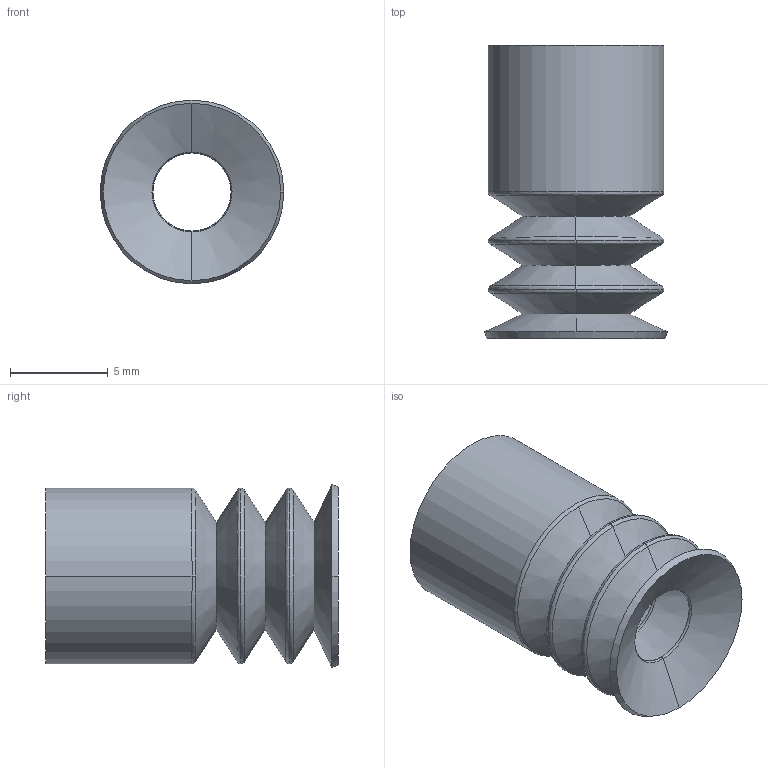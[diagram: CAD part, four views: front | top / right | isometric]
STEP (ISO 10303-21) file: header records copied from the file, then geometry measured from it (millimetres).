
FILE_DESCRIPTION (( 'STEP AP214' ), '1' );
FILE_NAME ('FG-9.STEP', '2023-03-07T06:40:58', ( 'Windows User' ), ( 'P R C' ), 'SwSTEP 2.0', 'SolidWorks 2019', '' );
FILE_SCHEMA (( 'AUTOMOTIVE_DESIGN' ));
Length unit declared in the file: millimetre
Products named in the file (1): FG-9
Bounding box: 9.4 x 15 x 9.4 mm (x, y, z)
Volume: 506 mm3; surface area: 916.6 mm2
Topology: 1 solids, 1 shells, 49 faces, 106 edges, 58 vertices
Faces by surface type: cone 26, bspline 18, cylinder 4, plane 1
Entity records: 1550 total; most frequent: CARTESIAN_POINT 538, ORIENTED_EDGE 212, DIRECTION 210, EDGE_CURVE 106, AXIS2_PLACEMENT_3D 90, CIRCLE 58, VERTEX_POINT 58, EDGE_LOOP 50
